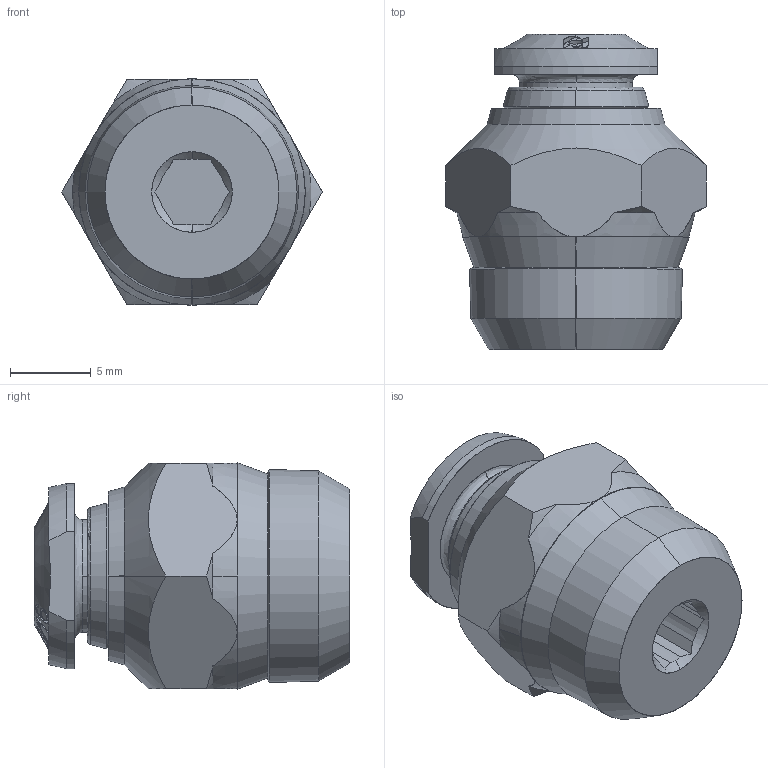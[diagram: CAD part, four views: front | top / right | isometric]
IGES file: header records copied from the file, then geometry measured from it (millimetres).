
Start section: SolidWorks IGES file using analytic representation for surfaces
Global section: file name: K:\Disegni Esecutivi\Serie 50000\ASSIEMI_50000\50000\ASSIEMI_.IGES_50000\5000000012A.IGS; native system: SolidWorks 2008; preprocessor: SolidWorks 2008; author: cad02; date: 081016.081229; units: millimetre
Bounding box: 16.17 x 19.6 x 14.06 mm (x, y, z)
Surface area: 1484.7 mm2 (no closed solid volume)
Topology: 0 solids, 0 shells, 256 faces, 2809 edges, 2804 vertices
Faces by surface type: bspline 169, revolution 87
